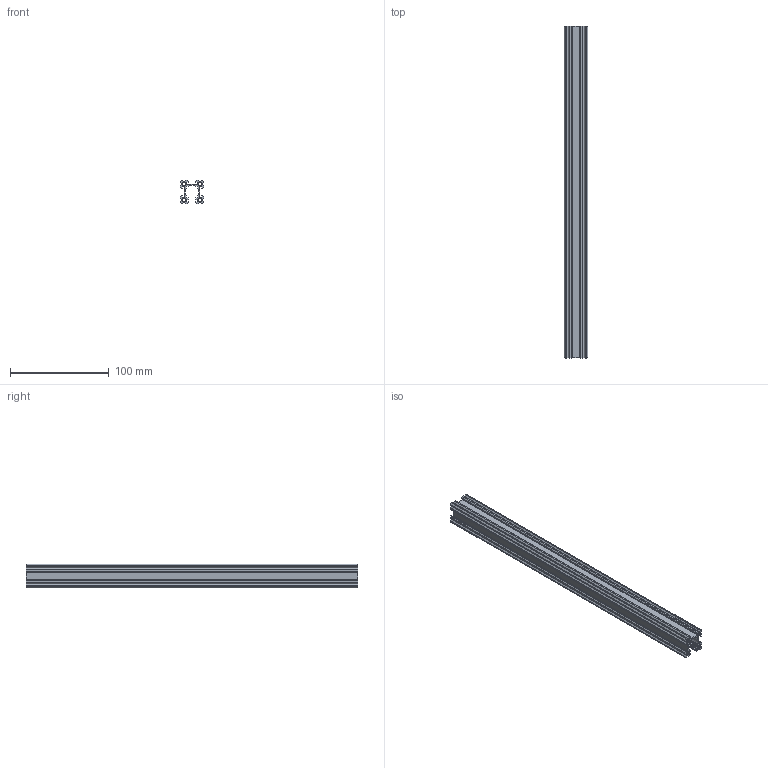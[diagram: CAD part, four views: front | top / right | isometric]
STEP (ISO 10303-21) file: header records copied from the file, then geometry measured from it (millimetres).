
FILE_DESCRIPTION (( 'STEP AP203' ), '1' );
FILE_NAME ('1118-0024-0336.STEP', '2017-09-21T19:05:06', ( '' ), ( '' ), 'SwSTEP 2.0', 'SolidWorks 2016', '' );
FILE_SCHEMA (( 'CONFIG_CONTROL_DESIGN' ));
Length unit declared in the file: millimetre
Products named in the file (1): 1118-0024-0336
Bounding box: 24 x 336 x 24 mm (x, y, z)
Volume: 62651.3 mm3; surface area: 79135.5 mm2
Topology: 1 solids, 1 shells, 801 faces, 2389 edges, 1590 vertices
Faces by surface type: cylinder 676, plane 89, cone 20, bspline 16
Entity records: 49920 total; most frequent: CARTESIAN_POINT 32205, ORIENTED_EDGE 4778, DIRECTION 2745, EDGE_CURVE 2389, VERTEX_POINT 1590, LINE 925, VECTOR 925, AXIS2_PLACEMENT_3D 910
